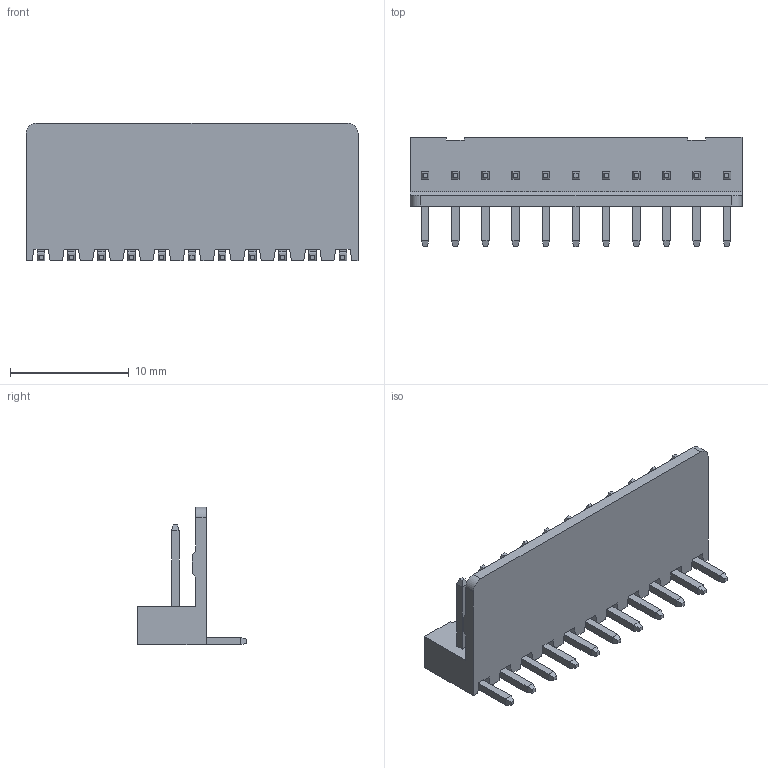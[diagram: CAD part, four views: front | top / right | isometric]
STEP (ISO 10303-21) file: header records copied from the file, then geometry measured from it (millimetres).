
FILE_DESCRIPTION(('CATIA V5 STEP Exchange'),'2;1');
FILE_NAME('F:\黄富鸿\条形连接器\2.50系列\24--2510（宏一）\NAW\HC-2510-11AW-02（2.54 单排 平弯针-HCTL）.stp','2025-11-19T02:43:38+00:00',('none'),('none'),'CATIA Version 5 Release 20 GA (IN-10)','CATIA V5 STEP AP203','none');
FILE_SCHEMA(('CONFIG_CONTROL_DESIGN'));
Length unit declared in the file: millimetre
Products named in the file (1): Part1
Bounding box: 27.94 x 9.2 x 11.6 mm (x, y, z)
Volume: 715.2 mm3; surface area: 1599.3 mm2
Topology: 12 solids, 12 shells, 308 faces, 760 edges, 476 vertices
Faces by surface type: plane 284, cylinder 24
Entity records: 7939 total; most frequent: ORIENTED_EDGE 1520, CARTESIAN_POINT 1468, DIRECTION 958, EDGE_CURVE 760, VECTOR 624, LINE 624, VERTEX_POINT 476, EDGE_LOOP 330
